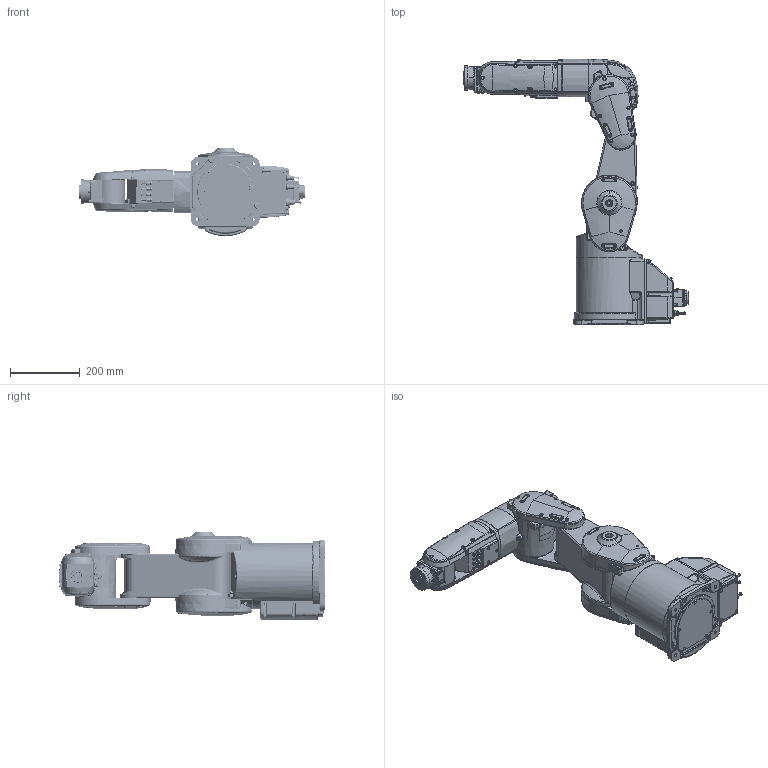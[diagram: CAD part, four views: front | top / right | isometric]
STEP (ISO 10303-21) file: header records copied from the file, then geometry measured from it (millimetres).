
FILE_DESCRIPTION((''),'2;1');
FILE_NAME('RV-4FRL-MC_ASM','2016-12-14T',('1362'),(''),'PRO/ENGINEER BY PARAMETRIC TECHNOLOGY CORPORATION, 2014310','PRO/ENGINEER BY PARAMETRIC TECHNOLOGY CORPORATION, 2014310','');
FILE_SCHEMA(('CONFIG_CONTROL_DESIGN'));
Products named in the file (9): RV-4FL_SKELTON; RV-4FR-MC_BASE; RV-4F_SHOULDER_01; RV-4FL_NO1ARM_02; RV-4F_ELBOW_03; RV-4FL_NO2ARM_04; RV-4F-MC_WRIST_05; RV-4F-MC_HAND_FLANGE_06; RV-4FRL-MC_ASM
Assembly tree (8 placements, depth 2):
  RV-4FRL-MC_ASM
    RV-4FL_SKELTON
    RV-4FR-MC_BASE
    RV-4F_SHOULDER_01
    RV-4FL_NO1ARM_02
    RV-4F_ELBOW_03
    RV-4FL_NO2ARM_04
    RV-4F-MC_WRIST_05
    RV-4F-MC_HAND_FLANGE_06
Bounding box: 648.5 x 764.54 x 254 mm (x, y, z)
Volume: 23485178.1 mm3; surface area: 1167847.7 mm2
Topology: 7 solids, 8 shells, 4173 faces, 10501 edges, 6524 vertices
Faces by surface type: cylinder 1413, plane 1017, bspline 878, torus 408, cone 373, sphere 62, extrusion 17, revolution 5
Entity records: 290630 total; most frequent: CARTESIAN_POINT 198346, ORIENTED_EDGE 20848, DIRECTION 17138, EDGE_CURVE 10424, AXIS2_PLACEMENT_3D 6857, VERTEX_POINT 6524, EDGE_LOOP 4450, FACE_OUTER_BOUND 4173
